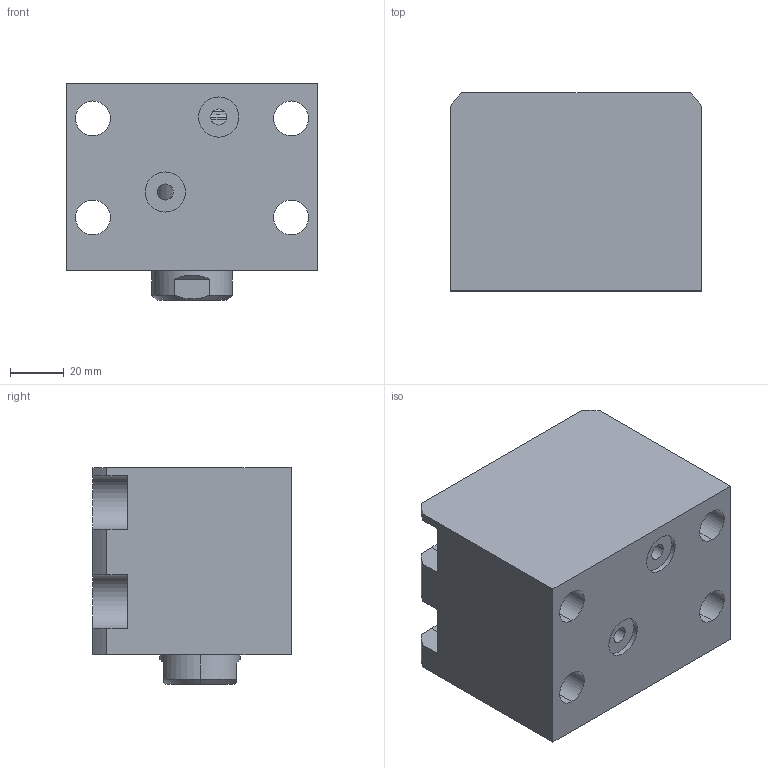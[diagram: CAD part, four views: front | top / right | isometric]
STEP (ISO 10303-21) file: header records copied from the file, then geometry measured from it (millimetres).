
FILE_DESCRIPTION (( 'STEP AP203' ), '1' );
FILE_NAME ('CHTB-LAM50-10N.STEP', '2018-05-23T09:21:48', ( '' ), ( '' ), 'SwSTEP 2.0', 'SolidWorks 2015', '' );
FILE_SCHEMA (( 'CONFIG_CONTROL_DESIGN' ));
Length unit declared in the file: millimetre
Products named in the file (4): CHTB-LAM50-10N; 掛极LAM50-10N; CHTM-SDMA50QG; 活塞杆LAM50-10N
Assembly tree (3 placements, depth 2):
  CHTB-LAM50-10N
    掛极LAM50-10N
    活塞杆LAM50-10N
    CHTM-SDMA50QG
Bounding box: 94 x 74 x 81 mm (x, y, z)
Volume: 416120 mm3; surface area: 87782.4 mm2
Topology: 3 solids, 3 shells, 179 faces, 489 edges, 325 vertices
Faces by surface type: cylinder 93, plane 41, torus 16, cone 15, bspline 14
Entity records: 10612 total; most frequent: CARTESIAN_POINT 5886, ORIENTED_EDGE 966, DIRECTION 841, EDGE_CURVE 483, AXIS2_PLACEMENT_3D 337, VERTEX_POINT 325, EDGE_LOOP 208, ADVANCED_FACE 179
